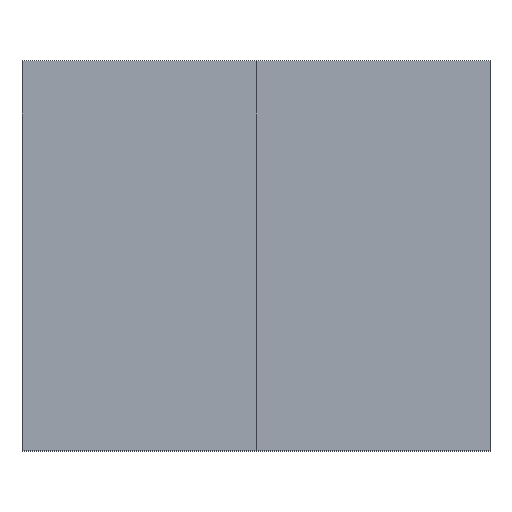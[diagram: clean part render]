
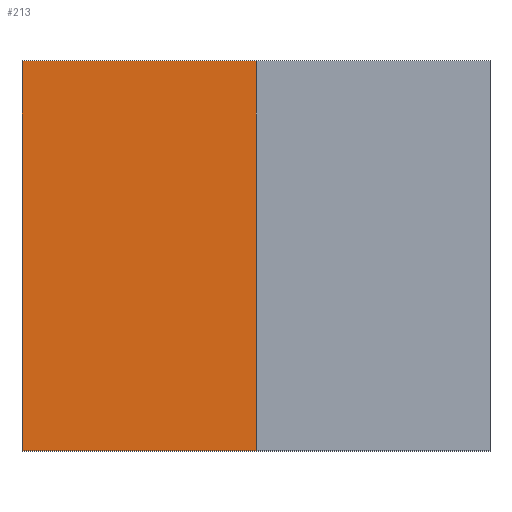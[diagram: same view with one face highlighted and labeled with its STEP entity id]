
A CAD part, top view. The second image highlights one B-rep face of the part: STEP entity #213.
In plain terms, the highlighted planar face has unit normal (0, 0, 1).
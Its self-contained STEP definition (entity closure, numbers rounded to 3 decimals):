
#24 = VERTEX_POINT('',#25);
#25 = CARTESIAN_POINT('',(0.,0.,4.));
#32 = PLANE('',#33);
#33 = AXIS2_PLACEMENT_3D('',#34,#35,#36);
#34 = CARTESIAN_POINT('',(0.,0.,0.));
#35 = DIRECTION('',(1.,0.,-0.));
#36 = DIRECTION('',(0.,0.,1.));
#44 = PLANE('',#45);
#45 = AXIS2_PLACEMENT_3D('',#46,#47,#48);
#46 = CARTESIAN_POINT('',(0.,0.,0.));
#47 = DIRECTION('',(-0.,1.,0.));
#48 = DIRECTION('',(0.,0.,1.));
#85 = VERTEX_POINT('',#86);
#86 = CARTESIAN_POINT('',(0.,10.,4.));
#100 = PLANE('',#101);
#101 = AXIS2_PLACEMENT_3D('',#102,#103,#104);
#102 = CARTESIAN_POINT('',(0.,10.,0.));
#103 = DIRECTION('',(-0.,1.,0.));
#104 = DIRECTION('',(0.,0.,1.));
#112 = EDGE_CURVE('',#24,#85,#113,.T.);
#113 = SURFACE_CURVE('',#114,(#118,#125),.PCURVE_S1.);
#114 = LINE('',#115,#116);
#115 = CARTESIAN_POINT('',(0.,0.,4.));
#116 = VECTOR('',#117,1.);
#117 = DIRECTION('',(-0.,1.,0.));
#118 = PCURVE('',#32,#119);
#119 = DEFINITIONAL_REPRESENTATION('',(#120),#124);
#120 = LINE('',#121,#122);
#121 = CARTESIAN_POINT('',(4.,0.));
#122 = VECTOR('',#123,1.);
#123 = DIRECTION('',(0.,-1.));
#124 = ( GEOMETRIC_REPRESENTATION_CONTEXT(2) 
PARAMETRIC_REPRESENTATION_CONTEXT() REPRESENTATION_CONTEXT('2D SPACE',''
  ) );
#125 = PCURVE('',#126,#131);
#126 = PLANE('',#127);
#127 = AXIS2_PLACEMENT_3D('',#128,#129,#130);
#128 = CARTESIAN_POINT('',(0.,0.,4.));
#129 = DIRECTION('',(0.,0.,1.));
#130 = DIRECTION('',(1.,0.,-0.));
#131 = DEFINITIONAL_REPRESENTATION('',(#132),#136);
#132 = LINE('',#133,#134);
#133 = CARTESIAN_POINT('',(0.,0.));
#134 = VECTOR('',#135,1.);
#135 = DIRECTION('',(0.,1.));
#136 = ( GEOMETRIC_REPRESENTATION_CONTEXT(2) 
PARAMETRIC_REPRESENTATION_CONTEXT() REPRESENTATION_CONTEXT('2D SPACE',''
  ) );
#165 = EDGE_CURVE('',#24,#166,#168,.T.);
#166 = VERTEX_POINT('',#167);
#167 = CARTESIAN_POINT('',(6.,0.,4.));
#168 = SURFACE_CURVE('',#169,(#173,#180),.PCURVE_S1.);
#169 = LINE('',#170,#171);
#170 = CARTESIAN_POINT('',(0.,0.,4.));
#171 = VECTOR('',#172,1.);
#172 = DIRECTION('',(1.,0.,-0.));
#173 = PCURVE('',#44,#174);
#174 = DEFINITIONAL_REPRESENTATION('',(#175),#179);
#175 = LINE('',#176,#177);
#176 = CARTESIAN_POINT('',(4.,0.));
#177 = VECTOR('',#178,1.);
#178 = DIRECTION('',(0.,1.));
#179 = ( GEOMETRIC_REPRESENTATION_CONTEXT(2) 
PARAMETRIC_REPRESENTATION_CONTEXT() REPRESENTATION_CONTEXT('2D SPACE',''
  ) );
#180 = PCURVE('',#126,#181);
#181 = DEFINITIONAL_REPRESENTATION('',(#182),#186);
#182 = LINE('',#183,#184);
#183 = CARTESIAN_POINT('',(0.,0.));
#184 = VECTOR('',#185,1.);
#185 = DIRECTION('',(1.,0.));
#186 = ( GEOMETRIC_REPRESENTATION_CONTEXT(2) 
PARAMETRIC_REPRESENTATION_CONTEXT() REPRESENTATION_CONTEXT('2D SPACE',''
  ) );
#213 = ADVANCED_FACE('',(#214),#126,.T.);
#214 = FACE_BOUND('',#215,.T.);
#215 = EDGE_LOOP('',(#216,#217,#218,#246));
#216 = ORIENTED_EDGE('',*,*,#112,.F.);
#217 = ORIENTED_EDGE('',*,*,#165,.T.);
#218 = ORIENTED_EDGE('',*,*,#219,.T.);
#219 = EDGE_CURVE('',#166,#220,#222,.T.);
#220 = VERTEX_POINT('',#221);
#221 = CARTESIAN_POINT('',(6.,10.,4.));
#222 = SURFACE_CURVE('',#223,(#227,#234),.PCURVE_S1.);
#223 = LINE('',#224,#225);
#224 = CARTESIAN_POINT('',(6.,0.,4.));
#225 = VECTOR('',#226,1.);
#226 = DIRECTION('',(-0.,1.,0.));
#227 = PCURVE('',#126,#228);
#228 = DEFINITIONAL_REPRESENTATION('',(#229),#233);
#229 = LINE('',#230,#231);
#230 = CARTESIAN_POINT('',(6.,0.));
#231 = VECTOR('',#232,1.);
#232 = DIRECTION('',(0.,1.));
#233 = ( GEOMETRIC_REPRESENTATION_CONTEXT(2) 
PARAMETRIC_REPRESENTATION_CONTEXT() REPRESENTATION_CONTEXT('2D SPACE',''
  ) );
#234 = PCURVE('',#235,#240);
#235 = PLANE('',#236);
#236 = AXIS2_PLACEMENT_3D('',#237,#238,#239);
#237 = CARTESIAN_POINT('',(6.,0.,4.));
#238 = DIRECTION('',(0.,0.,1.));
#239 = DIRECTION('',(1.,0.,-0.));
#240 = DEFINITIONAL_REPRESENTATION('',(#241),#245);
#241 = LINE('',#242,#243);
#242 = CARTESIAN_POINT('',(0.,0.));
#243 = VECTOR('',#244,1.);
#244 = DIRECTION('',(0.,1.));
#245 = ( GEOMETRIC_REPRESENTATION_CONTEXT(2) 
PARAMETRIC_REPRESENTATION_CONTEXT() REPRESENTATION_CONTEXT('2D SPACE',''
  ) );
#246 = ORIENTED_EDGE('',*,*,#247,.F.);
#247 = EDGE_CURVE('',#85,#220,#248,.T.);
#248 = SURFACE_CURVE('',#249,(#253,#260),.PCURVE_S1.);
#249 = LINE('',#250,#251);
#250 = CARTESIAN_POINT('',(0.,10.,4.));
#251 = VECTOR('',#252,1.);
#252 = DIRECTION('',(1.,0.,-0.));
#253 = PCURVE('',#126,#254);
#254 = DEFINITIONAL_REPRESENTATION('',(#255),#259);
#255 = LINE('',#256,#257);
#256 = CARTESIAN_POINT('',(0.,10.));
#257 = VECTOR('',#258,1.);
#258 = DIRECTION('',(1.,0.));
#259 = ( GEOMETRIC_REPRESENTATION_CONTEXT(2) 
PARAMETRIC_REPRESENTATION_CONTEXT() REPRESENTATION_CONTEXT('2D SPACE',''
  ) );
#260 = PCURVE('',#100,#261);
#261 = DEFINITIONAL_REPRESENTATION('',(#262),#266);
#262 = LINE('',#263,#264);
#263 = CARTESIAN_POINT('',(4.,0.));
#264 = VECTOR('',#265,1.);
#265 = DIRECTION('',(0.,1.));
#266 = ( GEOMETRIC_REPRESENTATION_CONTEXT(2) 
PARAMETRIC_REPRESENTATION_CONTEXT() REPRESENTATION_CONTEXT('2D SPACE',''
  ) );
